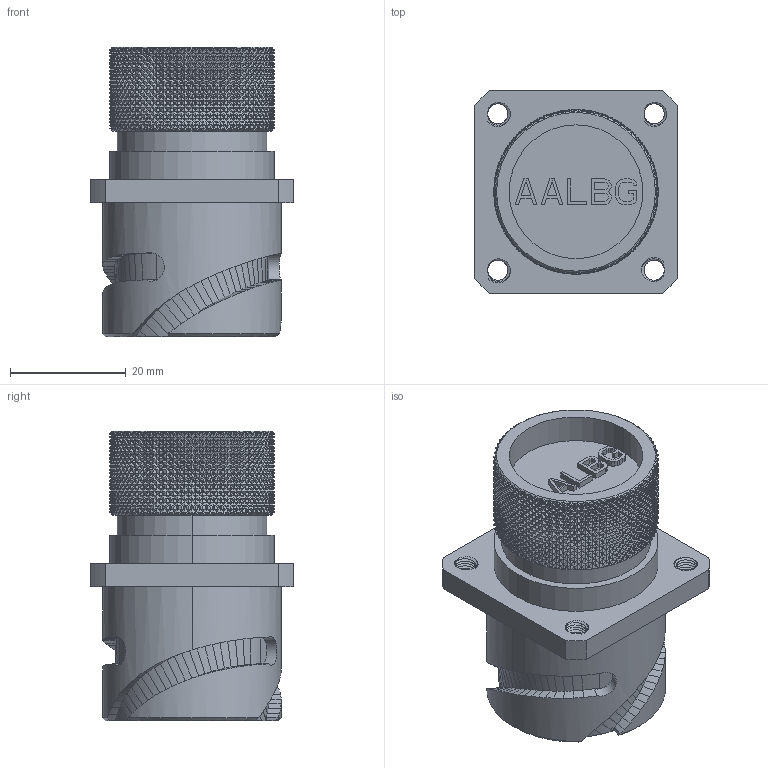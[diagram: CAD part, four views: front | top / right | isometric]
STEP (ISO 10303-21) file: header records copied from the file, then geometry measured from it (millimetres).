
FILE_DESCRIPTION((''),'2;1');
FILE_NAME('GCE3100E18M50P-B-T3_SW0001','2023-06-23T10:02:38',('paultorloting'),('NET AG system integration'),'CREO PARAMETRIC BY PTC INC, 2021404','CREO PARAMETRIC BY PTC INC, 2021404','');
FILE_SCHEMA(('AUTOMOTIVE_DESIGN { 1 0 10303 214 1 1 1 1 }'));
Products named in the file (1): GCE3100E18M50P-B-T3_SW0001
Bounding box: 35 x 35 x 50 mm (x, y, z)
Volume: 27345 mm3; surface area: 12172.4 mm2
Topology: 1 solids, 1 shells, 13070 faces, 28345 edges, 15296 vertices
Faces by surface type: bspline 5266, plane 4113, cylinder 1893, cone 1788, torus 10
Entity records: 534319 total; most frequent: CARTESIAN_POINT 212060, ORIENTED_EDGE 56690, DIRECTION 32238, EDGE_CURVE 28345, B_SPLINE_CURVE_WITH_KNOTS 17926, VERTEX_POINT 15296, AXIS2_PLACEMENT_3D 14002, EDGE_LOOP 13097
